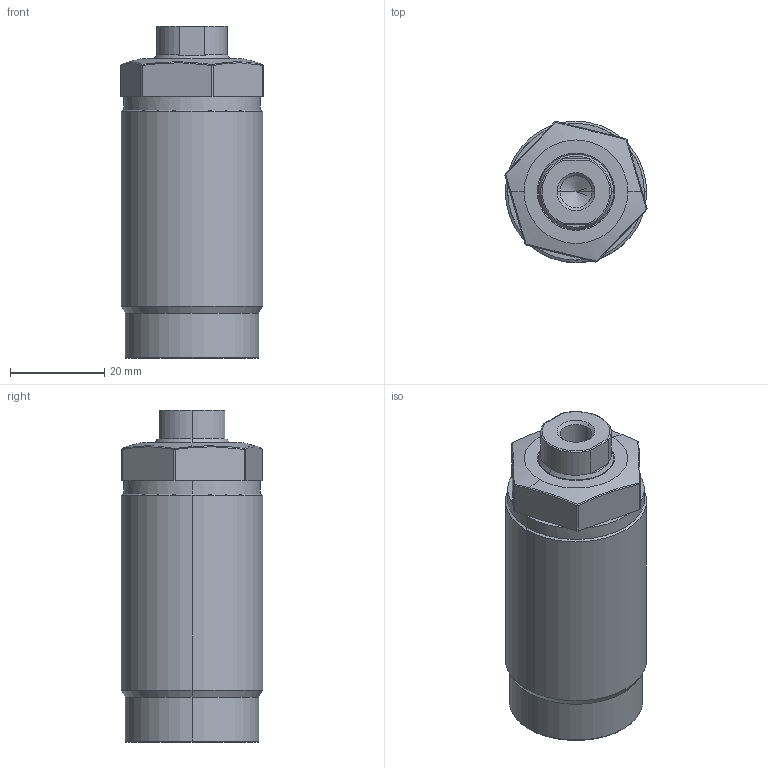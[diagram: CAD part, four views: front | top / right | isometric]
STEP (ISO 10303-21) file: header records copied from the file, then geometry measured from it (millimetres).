
FILE_DESCRIPTION (( 'STEP AP214' ), '1' );
FILE_NAME ('TO3C-M303-L.STEP', '2020-07-10T03:17:06', ( '' ), ( '' ), 'SwSTEP 2.0', 'SolidWorks 2019', '' );
FILE_SCHEMA (( 'AUTOMOTIVE_DESIGN' ));
Length unit declared in the file: millimetre
Products named in the file (3): TO3C-M303-L-BODY; TO3C-M303-L-PLUNGER; TO3C-M303-L
Assembly tree (2 placements, depth 2):
  TO3C-M303-L
    TO3C-M303-L-BODY
    TO3C-M303-L-PLUNGER
Bounding box: 30.17 x 30 x 70.5 mm (x, y, z)
Volume: 42864.8 mm3; surface area: 12681.6 mm2
Topology: 2 solids, 2 shells, 88 faces, 200 edges, 119 vertices
Faces by surface type: plane 38, cone 23, cylinder 21, bspline 6
Entity records: 3446 total; most frequent: CARTESIAN_POINT 1378, DIRECTION 404, ORIENTED_EDGE 396, EDGE_CURVE 198, AXIS2_PLACEMENT_3D 159, VERTEX_POINT 119, EDGE_LOOP 93, ADVANCED_FACE 88
